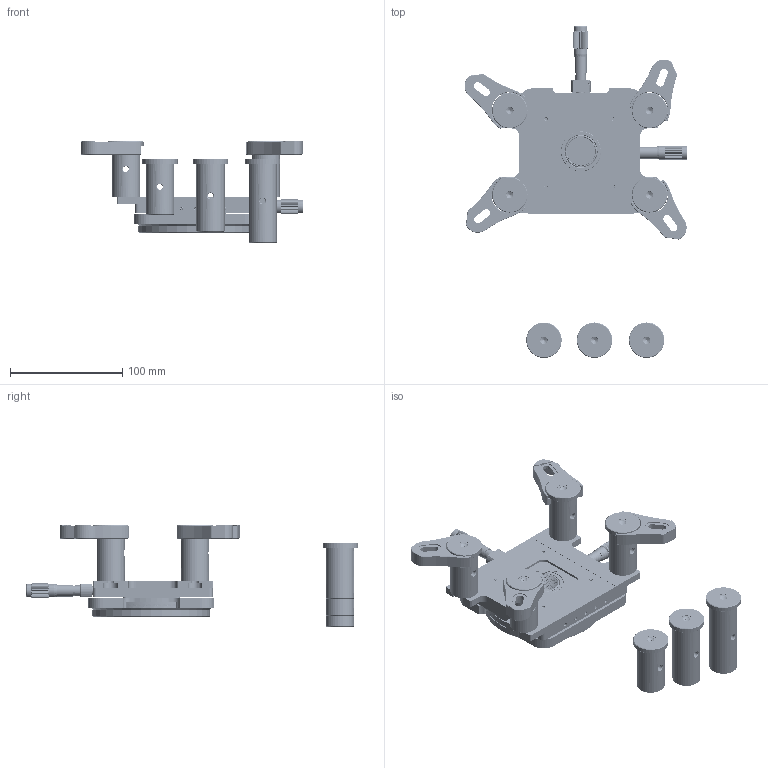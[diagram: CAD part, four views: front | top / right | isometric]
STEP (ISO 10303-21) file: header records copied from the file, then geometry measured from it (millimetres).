
FILE_DESCRIPTION((''),'2;1');
FILE_NAME('ASM0001_ASM','2026-05-14T18:04:26',('Administrator'),(''),'CREO PARAMETRIC BY PTC INC, 2025102','CREO PARAMETRIC BY PTC INC, 2025102','');
FILE_SCHEMA(('CONFIG_CONTROL_DESIGN'));
Products named in the file (50): CT-XYR-D_A1_5_1_1_2; CT-XYR-D_A2_6_1_1_2; CT-XYR-D_A3_13_1_1_2; CT-XYR-D_A4_30_1_1_2; CT-XYR-D_A5_13_1_1_2; CT-XYR-D_A6_36_1_1_2; CT-XYR-D_A7_5_1_1_2; SM13_A1_28; SM13_A2_58; SM13_A6_22; SM13_A3_38; SM13_A4_9; SM25_A5_8; SM13_ASM_ASM; CT-XYR-D_A8_6_1_1_2; AXLE_5X15_4_1_1_2; AXLE_2_4X23_5_4_1_1_2; AXLE_2X25_2_4_1_1_2; AXLE_2X41_7_6_1_1_2; AXLE_2X52_5_5_1_1_2; AXLE_2X64_6_5_1_1_2; AXLE_2X75_4_4_1_1_2; BALL_S_59X2_7X0_25_4_1_1_2; BALL_2_4_1_1_2; M2X6_HM_3_1_1_2; M2X9_HS_3_1_1_2; M3X3_HS_3_1_1_2; M3X5_HS_3_1_1_2; M3X6_HM_3_1_1_2; M4X11_HSJ_3_1_1_2; SPACER_6X1_4_1_1_2; SPRING_4X16_3_1_1_2; BALL_S_36X2_7X0_25_5_1_1_2; BALL_S_14_6X2_7X0_25_5_1_1_2; AXLE_1_5X9_5_3_1_1_2; SPRING_4X10_3_1_1_2; AXLE_3X49_5_4_1_1_2; AXLE_3X72_5_4_1_1_2; CSK3_1_3_1_1_2; CT-XYR-D_A9_1_1_1_2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
Assembly tree (168 placements, depth 5):
  ASM0001_ASM
    CT-XYR-D_ASM_ASM_1_1_2_ASM
      CT-XYR-D_ASM_19_ASM_1_1_2_ASM
        CT-XYR-D_A1_5_1_1_2
        CT-XYR-D_A2_6_1_1_2
        CT-XYR-D_A3_13_1_1_2
        CT-XYR-D_A4_30_1_1_2
        CT-XYR-D_A5_13_1_1_2
        CT-XYR-D_A6_36_1_1_2
        CT-XYR-D_A7_5_1_1_2
        SM13_ASM_ASM  x2
          SM13_A1_28
          SM13_A2_58
          SM13_A6_22
          SM13_A3_38
          SM13_A4_9
          SM25_A5_8
        CT-XYR-D_A8_6_1_1_2
        AXLE_5X15_4_1_1_2
        AXLE_2_4X23_5_4_1_1_2  x4
        AXLE_2X25_2_4_1_1_2  x4
        AXLE_2X41_7_6_1_1_2  x4
        AXLE_2X52_5_5_1_1_2  x4
        AXLE_2X64_6_5_1_1_2  x2
        AXLE_2X75_4_4_1_1_2  x2
        BALL_S_59X2_7X0_25_4_1_1_2
        BALL_2_4_1_1_2  x48
        M2X6_HM_3_1_1_2  x2
        M2X9_HS_3_1_1_2  x30
        M3X3_HS_3_1_1_2  x2
        M3X5_HS_3_1_1_2  x10
        M3X6_HM_3_1_1_2  x4
        M4X11_HSJ_3_1_1_2
        SPACER_6X1_4_1_1_2  x2
        SPRING_4X16_3_1_1_2  x2
        BALL_S_36X2_7X0_25_5_1_1_2  x2
        BALL_S_14_6X2_7X0_25_5_1_1_2  x2
        AXLE_1_5X9_5_3_1_1_2  x2
        SPRING_4X10_3_1_1_2  x2
        AXLE_3X49_5_4_1_1_2
        AXLE_3X72_5_4_1_1_2
        CSK3_1_3_1_1_2
        CT-XYR-D_A9_1_1_1_2
    CF50-S-1_1_1_2  x4
    M-BASE-D-2_1_1_2  x4
    CF-S_ASM_ASM
      CF50-S_6
      CF65-S_14
      CF_S_SCREW_1  x3
      CF75-S_47
Bounding box: 198.43 x 295.61 x 90.84 mm (x, y, z)
Volume: 469082.6 mm3; surface area: 234576.2 mm2
Topology: 166 solids, 170 shells, 11285 faces, 31188 edges, 20252 vertices
Faces by surface type: cylinder 4162, plane 3944, bspline 2019, cone 696, extrusion 218, sphere 198, torus 48
Entity records: 605470 total; most frequent: CARTESIAN_POINT 420915, ORIENTED_EDGE 43376, DIRECTION 30183, EDGE_CURVE 21707, VERTEX_POINT 14333, AXIS2_PLACEMENT_3D 10276, VECTOR 9631, LINE 9422
